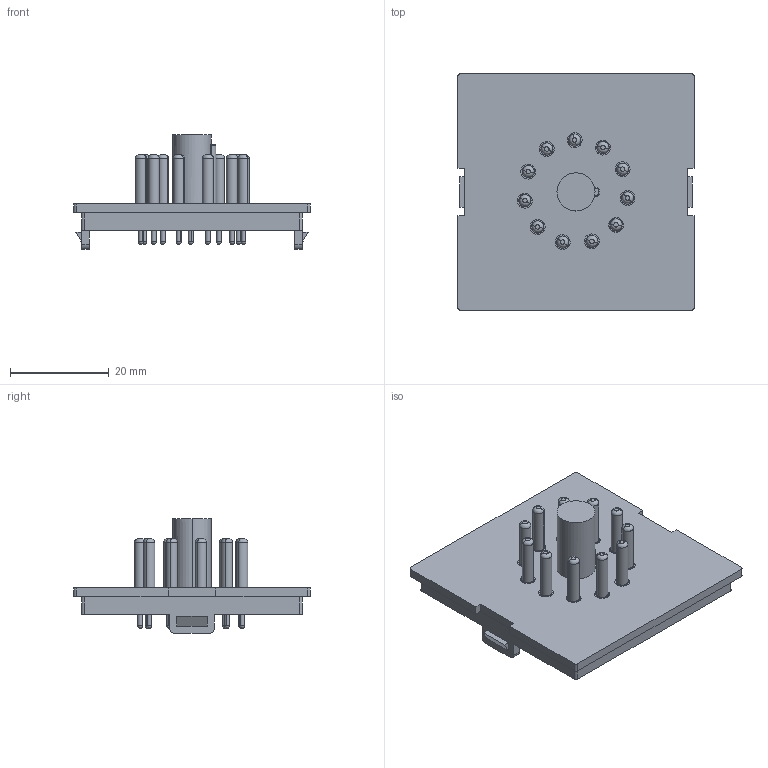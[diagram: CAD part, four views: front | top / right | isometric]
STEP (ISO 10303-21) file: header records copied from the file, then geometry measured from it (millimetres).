
FILE_DESCRIPTION (( 'STEP AP214' ), '1' );
FILE_NAME ('Tapa amb conectors PP50U.STEP', '2018-07-03T08:36:59', ( 'aaa' ), ( '' ), 'SwSTEP 2.0', 'SolidWorks 2013', '' );
FILE_SCHEMA (( 'AUTOMOTIVE_DESIGN' ));
Length unit declared in the file: millimetre
Products named in the file (3): Conector PP50U; Tapa sense conectors PP50U; Tapa amb conectors PP50U
Assembly tree (12 placements, depth 2):
  Tapa amb conectors PP50U
    Tapa sense conectors PP50U
    Conector PP50U  x11
Bounding box: 47.8 x 47.8 x 23.2 mm (x, y, z)
Volume: 6994 mm3; surface area: 9302.7 mm2
Topology: 12 solids, 12 shells, 288 faces, 680 edges, 445 vertices
Faces by surface type: cylinder 163, plane 90, torus 24, sphere 11
Entity records: 5404 total; most frequent: DIRECTION 1004, CARTESIAN_POINT 903, ORIENTED_EDGE 854, EDGE_CURVE 427, AXIS2_PLACEMENT_3D 396, VERTEX_POINT 283, CIRCLE 213, VECTOR 212
